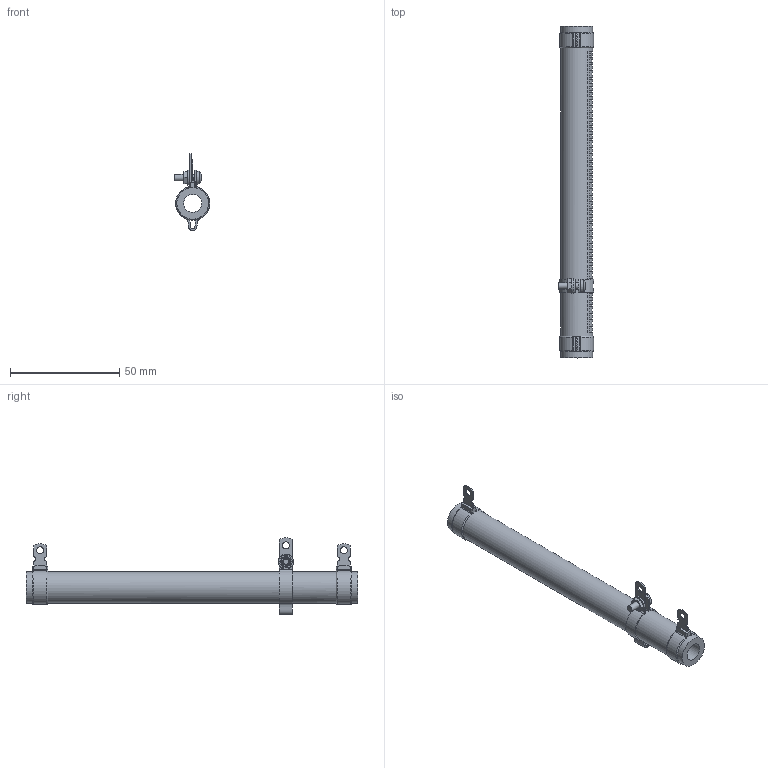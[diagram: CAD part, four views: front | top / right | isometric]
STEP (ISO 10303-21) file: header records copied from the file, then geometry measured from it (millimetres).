
FILE_DESCRIPTION(/* description */ (''),/* implementation_level */ '2;1');
FILE_NAME(/* name */ 'C:\_Vault\Dati\CATALOGO\RCA-RSA\R 25-1000\3D\RCAR 75.stp',/* time_stamp */ '2014-03-18T17:44:19+01:00',/* author */ ('stefano'),/* organization */ (''),/* preprocessor_version */ 'ST-DEVELOPER v15.2',/* originating_system */ 'Autodesk Inventor 2014',/* authorisation */ '');
FILE_SCHEMA (('AUTOMOTIVE_DESIGN { 1 0 10303 214 3 1 1 }'));
Length unit declared in the file: millimetre
Products named in the file (1): RCAR 75
Bounding box: 16.25 x 152 x 35.09 mm (x, y, z)
Volume: 17808.1 mm3; surface area: 12589.8 mm2
Topology: 1 solids, 1 shells, 471 faces, 1158 edges, 759 vertices
Faces by surface type: plane 325, cylinder 110, cone 18, torus 13, bspline 4, sphere 1
Full cylindrical faces by diameter (mm): 2.75 x1, 3 x1, 3.2 x5, 4.134 x1, 7 x1, 8.2 x1, 14.5 x3
Entity records: 14563 total; most frequent: CARTESIAN_POINT 2704, DIRECTION 2435, ORIENTED_EDGE 2252, EDGE_CURVE 1126, AXIS2_PLACEMENT_3D 882, VERTEX_POINT 749, LINE 671, VECTOR 671
